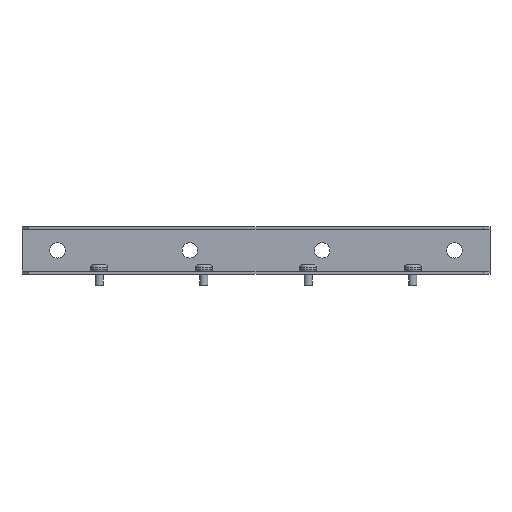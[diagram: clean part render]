
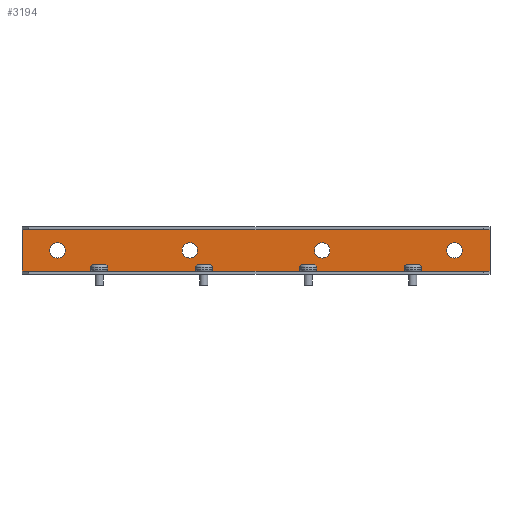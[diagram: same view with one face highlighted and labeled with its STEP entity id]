
A CAD part, left-side view. The second image highlights one B-rep face of the part: STEP entity #3194.
In plain terms, the highlighted planar face has unit normal (-1, 0, 0).
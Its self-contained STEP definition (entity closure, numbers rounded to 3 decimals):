
#1 = DIRECTION ( 'NONE',  ( -1., 0., 0. ) ) ;
#79 = EDGE_CURVE ( 'NONE', #1171, #2460, #1598, .T. ) ;
#102 = LINE ( 'NONE', #1959, #1273 ) ;
#151 = AXIS2_PLACEMENT_3D ( 'NONE', #3541, #3352, #3663 ) ;
#174 = EDGE_CURVE ( 'NONE', #1171, #2069, #225, .T. ) ;
#209 = CARTESIAN_POINT ( 'NONE',  ( 13.5, -120., -5.5 ) ) ;
#225 = LINE ( 'NONE', #2942, #2421 ) ;
#244 = CARTESIAN_POINT ( 'NONE',  ( 13.5, -120., 5.5 ) ) ;
#247 = ORIENTED_EDGE ( 'NONE', *, *, #2099, .F. ) ;
#251 = VERTEX_POINT ( 'NONE', #3601 ) ;
#300 = AXIS2_PLACEMENT_3D ( 'NONE', #1505, #2765, #308 ) ;
#308 = DIRECTION ( 'NONE',  ( 0., 0., 1. ) ) ;
#323 = DIRECTION ( 'NONE',  ( -1., 0., 0. ) ) ;
#329 = DIRECTION ( 'NONE',  ( 0., 1., 0. ) ) ;
#341 = CIRCLE ( 'NONE', #2113, 5.5 ) ;
#416 = LINE ( 'NONE', #2488, #2940 ) ;
#421 = AXIS2_PLACEMENT_3D ( 'NONE', #3636, #323, #2381 ) ;
#424 = ORIENTED_EDGE ( 'NONE', *, *, #1479, .F. ) ;
#439 = DIRECTION ( 'NONE',  ( 0., 0., -1. ) ) ;
#447 = VERTEX_POINT ( 'NONE', #1110 ) ;
#533 = DIRECTION ( 'NONE',  ( 0., 0., 1. ) ) ;
#585 = EDGE_CURVE ( 'NONE', #1032, #251, #341, .T. ) ;
#625 = EDGE_CURVE ( 'NONE', #251, #1032, #1858, .T. ) ;
#626 = LINE ( 'NONE', #1531, #2318 ) ;
#640 = CARTESIAN_POINT ( 'NONE',  ( 13.5, 0., 15. ) ) ;
#670 = ORIENTED_EDGE ( 'NONE', *, *, #1976, .F. ) ;
#693 = FACE_OUTER_BOUND ( 'NONE', #3264, .T. ) ;
#698 = DIRECTION ( 'NONE',  ( -1., 0., 0. ) ) ;
#734 = CIRCLE ( 'NONE', #3438, 5.5 ) ;
#737 = CIRCLE ( 'NONE', #2939, 5.5 ) ;
#763 = EDGE_LOOP ( 'NONE', ( #424, #247 ) ) ;
#805 = AXIS2_PLACEMENT_3D ( 'NONE', #1701, #2670, #1776 ) ;
#867 = ORIENTED_EDGE ( 'NONE', *, *, #79, .T. ) ;
#885 = DIRECTION ( 'NONE',  ( 0., 0., -1. ) ) ;
#916 = DIRECTION ( 'NONE',  ( -1., 0., 0. ) ) ;
#960 = FACE_BOUND ( 'NONE', #3651, .T. ) ;
#991 = DIRECTION ( 'NONE',  ( 0., 0., 1. ) ) ;
#1032 = VERTEX_POINT ( 'NONE', #1899 ) ;
#1099 = VERTEX_POINT ( 'NONE', #2828 ) ;
#1110 = CARTESIAN_POINT ( 'NONE',  ( 13.5, -25., 5.5 ) ) ;
#1158 = ORIENTED_EDGE ( 'NONE', *, *, #1865, .F. ) ;
#1171 = VERTEX_POINT ( 'NONE', #2267 ) ;
#1240 = EDGE_LOOP ( 'NONE', ( #670, #2028 ) ) ;
#1273 = VECTOR ( 'NONE', #3712, 1000. ) ;
#1278 = DIRECTION ( 'NONE',  ( 0., 0., 1. ) ) ;
#1395 = ORIENTED_EDGE ( 'NONE', *, *, #174, .F. ) ;
#1399 = CARTESIAN_POINT ( 'NONE',  ( 13.5, 70., 5.5 ) ) ;
#1405 = ORIENTED_EDGE ( 'NONE', *, *, #2313, .T. ) ;
#1479 = EDGE_CURVE ( 'NONE', #2043, #3073, #737, .T. ) ;
#1493 = EDGE_CURVE ( 'NONE', #3020, #2460, #626, .T. ) ;
#1502 = ORIENTED_EDGE ( 'NONE', *, *, #1493, .F. ) ;
#1505 = CARTESIAN_POINT ( 'NONE',  ( 13.5, -120., 0. ) ) ;
#1531 = CARTESIAN_POINT ( 'NONE',  ( 13.5, 0., -15. ) ) ;
#1556 = FACE_BOUND ( 'NONE', #1240, .T. ) ;
#1572 = CARTESIAN_POINT ( 'NONE',  ( 13.5, 0., 0. ) ) ;
#1576 = LINE ( 'NONE', #640, #3815 ) ;
#1598 = LINE ( 'NONE', #2489, #2104 ) ;
#1634 = AXIS2_PLACEMENT_3D ( 'NONE', #2205, #698, #991 ) ;
#1671 = EDGE_LOOP ( 'NONE', ( #2446, #3562 ) ) ;
#1689 = DIRECTION ( 'NONE',  ( 0., 0., 1. ) ) ;
#1701 = CARTESIAN_POINT ( 'NONE',  ( 13.5, -25., 0. ) ) ;
#1745 = CARTESIAN_POINT ( 'NONE',  ( 13.5, 165., 0. ) ) ;
#1776 = DIRECTION ( 'NONE',  ( 0., 0., 1. ) ) ;
#1777 = EDGE_CURVE ( 'NONE', #3337, #3869, #734, .T. ) ;
#1799 = CARTESIAN_POINT ( 'NONE',  ( 13.5, -120., 0. ) ) ;
#1850 = DIRECTION ( 'NONE',  ( 0., 1., 0. ) ) ;
#1858 = CIRCLE ( 'NONE', #151, 5.5 ) ;
#1865 = EDGE_CURVE ( 'NONE', #3869, #3337, #3064, .T. ) ;
#1899 = CARTESIAN_POINT ( 'NONE',  ( 13.5, 165., -5.5 ) ) ;
#1900 = DIRECTION ( 'NONE',  ( 0., 1., 0. ) ) ;
#1920 = CARTESIAN_POINT ( 'NONE',  ( 13.5, 190.5, 15. ) ) ;
#1959 = CARTESIAN_POINT ( 'NONE',  ( 13.5, -145.5, 14. ) ) ;
#1976 = EDGE_CURVE ( 'NONE', #2937, #447, #3004, .T. ) ;
#2003 = CIRCLE ( 'NONE', #300, 5.5 ) ;
#2028 = ORIENTED_EDGE ( 'NONE', *, *, #2184, .F. ) ;
#2043 = VERTEX_POINT ( 'NONE', #209 ) ;
#2069 = VERTEX_POINT ( 'NONE', #2325 ) ;
#2088 = VECTOR ( 'NONE', #885, 1000. ) ;
#2099 = EDGE_CURVE ( 'NONE', #3073, #2043, #2003, .T. ) ;
#2104 = VECTOR ( 'NONE', #439, 1000. ) ;
#2113 = AXIS2_PLACEMENT_3D ( 'NONE', #1745, #3240, #533 ) ;
#2133 = CIRCLE ( 'NONE', #421, 5.5 ) ;
#2134 = DIRECTION ( 'NONE',  ( 0., 0., 1. ) ) ;
#2159 = EDGE_CURVE ( 'NONE', #3148, #2243, #1576, .T. ) ;
#2184 = EDGE_CURVE ( 'NONE', #447, #2937, #2133, .T. ) ;
#2205 = CARTESIAN_POINT ( 'NONE',  ( 13.5, 70., 0. ) ) ;
#2235 = VECTOR ( 'NONE', #1689, 1000. ) ;
#2239 = ORIENTED_EDGE ( 'NONE', *, *, #1777, .F. ) ;
#2243 = VERTEX_POINT ( 'NONE', #1920 ) ;
#2267 = CARTESIAN_POINT ( 'NONE',  ( 13.5, 190.5, -14. ) ) ;
#2272 = EDGE_CURVE ( 'NONE', #2466, #1099, #416, .T. ) ;
#2294 = CARTESIAN_POINT ( 'NONE',  ( 13.5, 190.5, 0. ) ) ;
#2313 = EDGE_CURVE ( 'NONE', #2466, #3148, #102, .T. ) ;
#2318 = VECTOR ( 'NONE', #329, 1000. ) ;
#2325 = CARTESIAN_POINT ( 'NONE',  ( 13.5, 190.5, 14. ) ) ;
#2381 = DIRECTION ( 'NONE',  ( 0., 0., 1. ) ) ;
#2421 = VECTOR ( 'NONE', #3269, 1000. ) ;
#2427 = CARTESIAN_POINT ( 'NONE',  ( 13.5, -145.5, 15. ) ) ;
#2438 = CARTESIAN_POINT ( 'NONE',  ( 13.5, 70., 0. ) ) ;
#2446 = ORIENTED_EDGE ( 'NONE', *, *, #585, .F. ) ;
#2448 = FACE_BOUND ( 'NONE', #763, .T. ) ;
#2460 = VERTEX_POINT ( 'NONE', #3820 ) ;
#2466 = VERTEX_POINT ( 'NONE', #2899 ) ;
#2488 = CARTESIAN_POINT ( 'NONE',  ( 13.5, -145.5, -15. ) ) ;
#2489 = CARTESIAN_POINT ( 'NONE',  ( 13.5, 190.5, -14. ) ) ;
#2535 = CARTESIAN_POINT ( 'NONE',  ( 13.5, 70., -5.5 ) ) ;
#2560 = LINE ( 'NONE', #3151, #2088 ) ;
#2568 = CARTESIAN_POINT ( 'NONE',  ( 13.5, -145.5, -15. ) ) ;
#2598 = ORIENTED_EDGE ( 'NONE', *, *, #3361, .F. ) ;
#2670 = DIRECTION ( 'NONE',  ( -1., 0., 0. ) ) ;
#2740 = PLANE ( 'NONE',  #2897 ) ;
#2765 = DIRECTION ( 'NONE',  ( -1., 0., 0. ) ) ;
#2828 = CARTESIAN_POINT ( 'NONE',  ( 13.5, -145.5, -14. ) ) ;
#2879 = EDGE_CURVE ( 'NONE', #2069, #2243, #3509, .T. ) ;
#2897 = AXIS2_PLACEMENT_3D ( 'NONE', #1572, #3037, #1900 ) ;
#2899 = CARTESIAN_POINT ( 'NONE',  ( 13.5, -145.5, 14. ) ) ;
#2937 = VERTEX_POINT ( 'NONE', #3024 ) ;
#2939 = AXIS2_PLACEMENT_3D ( 'NONE', #1799, #1, #2134 ) ;
#2940 = VECTOR ( 'NONE', #3382, 1000. ) ;
#2942 = CARTESIAN_POINT ( 'NONE',  ( 13.5, 190.5, 13. ) ) ;
#2947 = ORIENTED_EDGE ( 'NONE', *, *, #2159, .T. ) ;
#3004 = CIRCLE ( 'NONE', #805, 5.5 ) ;
#3020 = VERTEX_POINT ( 'NONE', #2568 ) ;
#3024 = CARTESIAN_POINT ( 'NONE',  ( 13.5, -25., -5.5 ) ) ;
#3037 = DIRECTION ( 'NONE',  ( -1., 0., 0. ) ) ;
#3064 = CIRCLE ( 'NONE', #1634, 5.5 ) ;
#3073 = VERTEX_POINT ( 'NONE', #244 ) ;
#3148 = VERTEX_POINT ( 'NONE', #2427 ) ;
#3151 = CARTESIAN_POINT ( 'NONE',  ( 13.5, -145.5, 0. ) ) ;
#3194 = ADVANCED_FACE ( 'NONE', ( #3396, #2448, #1556, #960, #693 ), #2740, .T. ) ;
#3240 = DIRECTION ( 'NONE',  ( -1., 0., 0. ) ) ;
#3264 = EDGE_LOOP ( 'NONE', ( #1395, #867, #1502, #2598, #3640, #1405, #2947, #3557 ) ) ;
#3269 = DIRECTION ( 'NONE',  ( 0., 0., 1. ) ) ;
#3337 = VERTEX_POINT ( 'NONE', #2535 ) ;
#3352 = DIRECTION ( 'NONE',  ( -1., 0., 0. ) ) ;
#3361 = EDGE_CURVE ( 'NONE', #1099, #3020, #2560, .T. ) ;
#3382 = DIRECTION ( 'NONE',  ( 0., 0., -1. ) ) ;
#3396 = FACE_BOUND ( 'NONE', #1671, .T. ) ;
#3438 = AXIS2_PLACEMENT_3D ( 'NONE', #2438, #916, #1278 ) ;
#3509 = LINE ( 'NONE', #2294, #2235 ) ;
#3541 = CARTESIAN_POINT ( 'NONE',  ( 13.5, 165., 0. ) ) ;
#3557 = ORIENTED_EDGE ( 'NONE', *, *, #2879, .F. ) ;
#3562 = ORIENTED_EDGE ( 'NONE', *, *, #625, .F. ) ;
#3601 = CARTESIAN_POINT ( 'NONE',  ( 13.5, 165., 5.5 ) ) ;
#3636 = CARTESIAN_POINT ( 'NONE',  ( 13.5, -25., 0. ) ) ;
#3640 = ORIENTED_EDGE ( 'NONE', *, *, #2272, .F. ) ;
#3651 = EDGE_LOOP ( 'NONE', ( #2239, #1158 ) ) ;
#3663 = DIRECTION ( 'NONE',  ( 0., 0., 1. ) ) ;
#3712 = DIRECTION ( 'NONE',  ( 0., 0., 1. ) ) ;
#3815 = VECTOR ( 'NONE', #1850, 1000. ) ;
#3820 = CARTESIAN_POINT ( 'NONE',  ( 13.5, 190.5, -15. ) ) ;
#3869 = VERTEX_POINT ( 'NONE', #1399 ) ;
